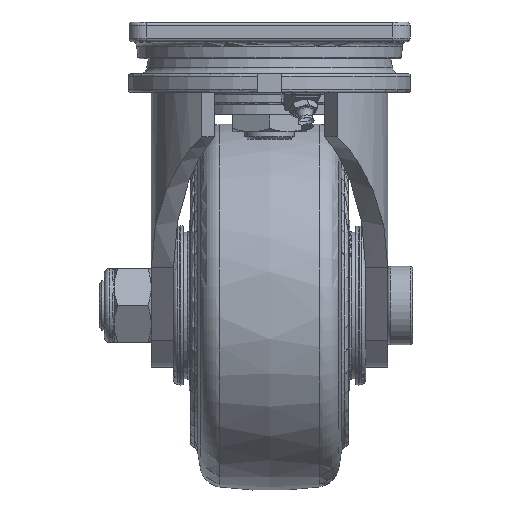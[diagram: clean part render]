
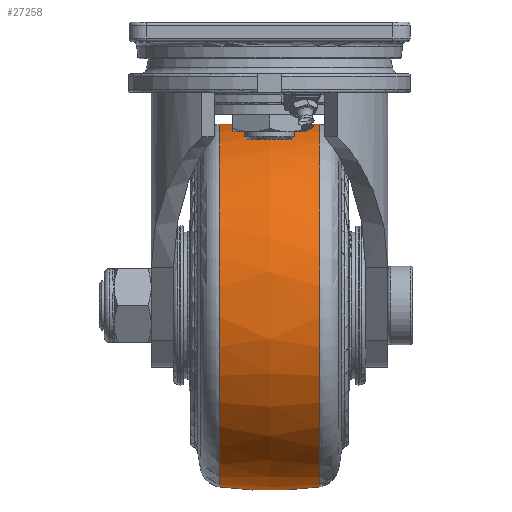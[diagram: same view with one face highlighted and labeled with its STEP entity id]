
A CAD part, left-side view. The second image highlights one B-rep face of the part: STEP entity #27258.
In plain terms, the highlighted free-form (B-spline) face has degree [2, 2] with [3, 9] control points.
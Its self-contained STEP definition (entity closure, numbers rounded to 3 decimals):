
#105=(
BOUNDED_SURFACE()
B_SPLINE_SURFACE(2,2,((#37659,#37660,#37661,#37662,#37663,#37664,#37665,
#37666,#37667),(#37668,#37669,#37670,#37671,#37672,#37673,#37674,#37675,
#37676),(#37677,#37678,#37679,#37680,#37681,#37682,#37683,#37684,#37685)),
 .UNSPECIFIED.,.F.,.T.,.F.)
B_SPLINE_SURFACE_WITH_KNOTS((3,3),(3,2,2,2,3),(-0.136,0.136),
(-3.142,-1.571,0.,1.571,3.142),
 .UNSPECIFIED.)
GEOMETRIC_REPRESENTATION_ITEM()
RATIONAL_B_SPLINE_SURFACE(((1.,0.707,1.,0.707,1.,
0.707,1.,0.707,1.),(0.991,0.701,
0.991,0.701,0.991,0.701,
0.991,0.701,0.991),(1.,0.707,
1.,0.707,1.,0.707,1.,0.707,1.)))
REPRESENTATION_ITEM('')
SURFACE()
);
#6697=FACE_OUTER_BOUND('',#8377,.T.);
#8377=EDGE_LOOP('',(#18670,#18671,#18672,#18673,#18674,#18675,#18676,#18677));
#10174=CIRCLE('',#29029,73.606);
#10175=CIRCLE('',#29030,73.606);
#10176=CIRCLE('',#29031,73.606);
#10177=CIRCLE('',#29032,150.);
#10178=CIRCLE('',#29033,73.606);
#10179=CIRCLE('',#29034,73.606);
#10180=CIRCLE('',#29035,73.606);
#11385=VERTEX_POINT('',#37652);
#11386=VERTEX_POINT('',#37654);
#11387=VERTEX_POINT('',#37656);
#11388=VERTEX_POINT('',#37686);
#11389=VERTEX_POINT('',#37688);
#11390=VERTEX_POINT('',#37690);
#14173=EDGE_CURVE('',#11385,#11386,#10174,.T.);
#14174=EDGE_CURVE('',#11386,#11387,#10175,.T.);
#14175=EDGE_CURVE('',#11387,#11385,#10176,.T.);
#14176=EDGE_CURVE('',#11386,#11388,#10177,.T.);
#14177=EDGE_CURVE('',#11388,#11389,#10178,.T.);
#14178=EDGE_CURVE('',#11389,#11390,#10179,.T.);
#14179=EDGE_CURVE('',#11390,#11388,#10180,.T.);
#18670=ORIENTED_EDGE('',*,*,#14175,.F.);
#18671=ORIENTED_EDGE('',*,*,#14174,.F.);
#18672=ORIENTED_EDGE('',*,*,#14176,.T.);
#18673=ORIENTED_EDGE('',*,*,#14177,.T.);
#18674=ORIENTED_EDGE('',*,*,#14178,.T.);
#18675=ORIENTED_EDGE('',*,*,#14179,.T.);
#18676=ORIENTED_EDGE('',*,*,#14176,.F.);
#18677=ORIENTED_EDGE('',*,*,#14173,.F.);
#27258=ADVANCED_FACE('',(#6697),#105,.F.);
#29029=AXIS2_PLACEMENT_3D('',#37655,#31385,#31386);
#29030=AXIS2_PLACEMENT_3D('',#37657,#31387,#31388);
#29031=AXIS2_PLACEMENT_3D('',#37658,#31389,#31390);
#29032=AXIS2_PLACEMENT_3D('',#37687,#31391,#31392);
#29033=AXIS2_PLACEMENT_3D('',#37689,#31393,#31394);
#29034=AXIS2_PLACEMENT_3D('',#37691,#31395,#31396);
#29035=AXIS2_PLACEMENT_3D('',#37692,#31397,#31398);
#31385=DIRECTION('center_axis',(0.,-1.,0.));
#31386=DIRECTION('ref_axis',(0.978,0.,-0.208));
#31387=DIRECTION('center_axis',(0.,-1.,0.));
#31388=DIRECTION('ref_axis',(0.978,0.,-0.208));
#31389=DIRECTION('center_axis',(0.,-1.,0.));
#31390=DIRECTION('ref_axis',(0.978,0.,-0.208));
#31391=DIRECTION('center_axis',(1.,0.,0.));
#31392=DIRECTION('ref_axis',(0.,0.,
-1.));
#31393=DIRECTION('center_axis',(0.,-1.,0.));
#31394=DIRECTION('ref_axis',(0.978,0.,-0.208));
#31395=DIRECTION('center_axis',(0.,-1.,0.));
#31396=DIRECTION('ref_axis',(0.978,0.,-0.208));
#31397=DIRECTION('center_axis',(0.,-1.,0.));
#31398=DIRECTION('ref_axis',(0.978,0.,-0.208));
#37652=CARTESIAN_POINT('',(67.329,-20.406,-13.008));
#37654=CARTESIAN_POINT('',(52.,-20.406,-158.606));
#37655=CARTESIAN_POINT('Origin',(52.,-20.406,-85.));
#37656=CARTESIAN_POINT('',(123.992,-20.406,-100.329));
#37657=CARTESIAN_POINT('Origin',(52.,-20.406,-85.));
#37658=CARTESIAN_POINT('Origin',(52.,-20.406,-85.));
#37659=CARTESIAN_POINT('Ctrl Pts',(52.,-20.406,-158.606));
#37660=CARTESIAN_POINT('Ctrl Pts',(-21.606,-20.406,
-158.606));
#37661=CARTESIAN_POINT('Ctrl Pts',(-21.606,-20.406,-85.));
#37662=CARTESIAN_POINT('Ctrl Pts',(-21.606,-20.406,
-11.394));
#37663=CARTESIAN_POINT('Ctrl Pts',(52.,-20.406,-11.394));
#37664=CARTESIAN_POINT('Ctrl Pts',(125.606,-20.406,-11.394));
#37665=CARTESIAN_POINT('Ctrl Pts',(125.606,-20.406,-85.));
#37666=CARTESIAN_POINT('Ctrl Pts',(125.606,-20.406,-158.606));
#37667=CARTESIAN_POINT('Ctrl Pts',(52.,-20.406,-158.606));
#37668=CARTESIAN_POINT('Ctrl Pts',(52.,0.,
-161.408));
#37669=CARTESIAN_POINT('Ctrl Pts',(-24.408,0.,
-161.408));
#37670=CARTESIAN_POINT('Ctrl Pts',(-24.408,0.,
-85.));
#37671=CARTESIAN_POINT('Ctrl Pts',(-24.408,0.,
-8.592));
#37672=CARTESIAN_POINT('Ctrl Pts',(52.,0.,
-8.592));
#37673=CARTESIAN_POINT('Ctrl Pts',(128.408,0.,
-8.592));
#37674=CARTESIAN_POINT('Ctrl Pts',(128.408,0.,
-85.));
#37675=CARTESIAN_POINT('Ctrl Pts',(128.408,0.,
-161.408));
#37676=CARTESIAN_POINT('Ctrl Pts',(52.,0.,
-161.408));
#37677=CARTESIAN_POINT('Ctrl Pts',(52.,20.406,-158.606));
#37678=CARTESIAN_POINT('Ctrl Pts',(-21.606,20.406,-158.606));
#37679=CARTESIAN_POINT('Ctrl Pts',(-21.606,20.406,-85.));
#37680=CARTESIAN_POINT('Ctrl Pts',(-21.606,20.406,-11.394));
#37681=CARTESIAN_POINT('Ctrl Pts',(52.,20.406,-11.394));
#37682=CARTESIAN_POINT('Ctrl Pts',(125.606,20.406,-11.394));
#37683=CARTESIAN_POINT('Ctrl Pts',(125.606,20.406,-85.));
#37684=CARTESIAN_POINT('Ctrl Pts',(125.606,20.406,-158.606));
#37685=CARTESIAN_POINT('Ctrl Pts',(52.,20.406,-158.606));
#37686=CARTESIAN_POINT('',(52.,20.406,-158.606));
#37687=CARTESIAN_POINT('Origin',(52.,0.,
-10.));
#37688=CARTESIAN_POINT('',(123.992,20.406,-100.329));
#37689=CARTESIAN_POINT('Origin',(52.,20.406,-85.));
#37690=CARTESIAN_POINT('',(67.329,20.406,-13.008));
#37691=CARTESIAN_POINT('Origin',(52.,20.406,-85.));
#37692=CARTESIAN_POINT('Origin',(52.,20.406,-85.));
